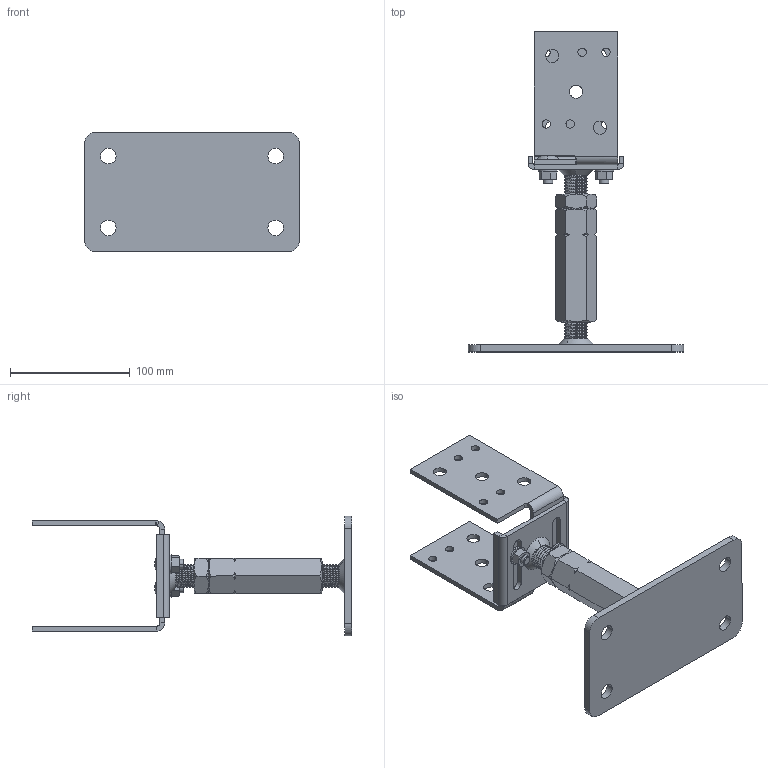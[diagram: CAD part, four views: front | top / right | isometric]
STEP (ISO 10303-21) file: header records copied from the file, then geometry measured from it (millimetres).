
FILE_DESCRIPTION (( 'STEP AP203' ), '1' );
FILE_NAME ('19653201.STEP', '2021-04-13T11:03:32', ( '' ), ( '' ), 'SwSTEP 2.0', 'SolidWorks 2013', '' );
FILE_SCHEMA (( 'CONFIG_CONTROL_DESIGN' ));
Length unit declared in the file: millimetre
Products named in the file (1): 19653201
Bounding box: 180 x 267.58 x 100 mm (x, y, z)
Volume: 300799.1 mm3; surface area: 134756.7 mm2
Topology: 16 solids, 16 shells, 390 faces, 974 edges, 620 vertices
Faces by surface type: cylinder 184, plane 120, cone 62, bspline 16, torus 4, sphere 4
Entity records: 26501 total; most frequent: CARTESIAN_POINT 17779, ORIENTED_EDGE 1948, DIRECTION 1624, EDGE_CURVE 974, VERTEX_POINT 620, AXIS2_PLACEMENT_3D 615, EDGE_LOOP 454, LINE 394
